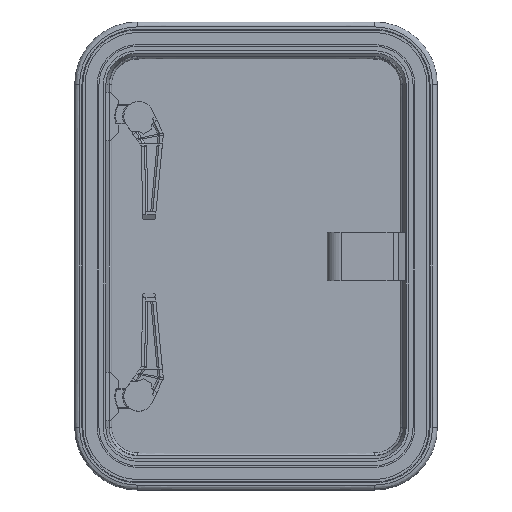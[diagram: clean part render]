
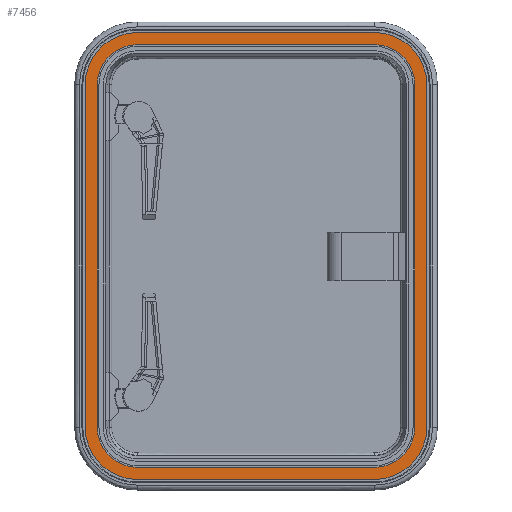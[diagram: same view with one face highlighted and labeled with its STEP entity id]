
A CAD part, top view. The second image highlights one B-rep face of the part: STEP entity #7456.
In plain terms, the highlighted planar face has unit normal (0, 0, 1) as drawn and (0, 0, -1) by its records, which use the part's own axes.
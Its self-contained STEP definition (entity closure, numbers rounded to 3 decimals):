
#1553=DIRECTION('',(1.,0.,0.));
#1554=VECTOR('',#1553,293.);
#1555=CARTESIAN_POINT('',(77.5,28.,-1.5));
#1556=LINE('',#1555,#1554);
#1561=CARTESIAN_POINT('',(77.5,77.5,-1.5));
#1562=DIRECTION('',(0.,0.,1.));
#1563=DIRECTION('',(-1.,0.,0.));
#1564=AXIS2_PLACEMENT_3D('',#1561,#1562,#1563);
#1574=DIRECTION('',(0.,-1.,0.));
#1575=VECTOR('',#1574,423.);
#1576=CARTESIAN_POINT('',(28.,500.5,-1.5));
#1577=LINE('',#1576,#1575);
#1582=CARTESIAN_POINT('',(77.5,500.5,-1.5));
#1583=DIRECTION('',(0.,0.,1.));
#1584=DIRECTION('',(0.,1.,0.));
#1585=AXIS2_PLACEMENT_3D('',#1582,#1583,#1584);
#1591=DIRECTION('',(-1.,0.,0.));
#1592=VECTOR('',#1591,293.);
#1593=CARTESIAN_POINT('',(370.5,550.,-1.5));
#1594=LINE('',#1593,#1592);
#1599=CARTESIAN_POINT('',(370.5,500.5,-1.5));
#1600=DIRECTION('',(0.,0.,1.));
#1601=DIRECTION('',(1.,0.,0.));
#1602=AXIS2_PLACEMENT_3D('',#1599,#1600,#1601);
#1608=DIRECTION('',(0.,1.,0.));
#1609=VECTOR('',#1608,423.);
#1610=CARTESIAN_POINT('',(420.,77.5,-1.5));
#1611=LINE('',#1610,#1609);
#1616=CARTESIAN_POINT('',(370.5,77.5,-1.5));
#1617=DIRECTION('',(0.,0.,1.));
#1618=DIRECTION('',(0.,-1.,0.));
#1619=AXIS2_PLACEMENT_3D('',#1616,#1617,#1618);
#1621=DIRECTION('',(1.,0.,0.));
#1622=VECTOR('',#1621,293.);
#1623=CARTESIAN_POINT('',(77.5,13.,-1.5));
#1624=LINE('',#1623,#1622);
#1625=CARTESIAN_POINT('',(370.5,77.5,-1.5));
#1626=DIRECTION('',(0.,0.,1.));
#1627=DIRECTION('',(0.,-1.,0.));
#1628=AXIS2_PLACEMENT_3D('',#1625,#1626,#1627);
#1630=DIRECTION('',(0.,1.,0.));
#1631=VECTOR('',#1630,423.);
#1632=CARTESIAN_POINT('',(435.,77.5,-1.5));
#1633=LINE('',#1632,#1631);
#1634=CARTESIAN_POINT('',(370.5,500.5,-1.5));
#1635=DIRECTION('',(0.,0.,1.));
#1636=DIRECTION('',(1.,0.,0.));
#1637=AXIS2_PLACEMENT_3D('',#1634,#1635,#1636);
#1639=DIRECTION('',(-1.,0.,0.));
#1640=VECTOR('',#1639,293.);
#1641=CARTESIAN_POINT('',(370.5,565.,-1.5));
#1642=LINE('',#1641,#1640);
#1643=CARTESIAN_POINT('',(77.5,500.5,-1.5));
#1644=DIRECTION('',(0.,0.,1.));
#1645=DIRECTION('',(0.,1.,0.));
#1646=AXIS2_PLACEMENT_3D('',#1643,#1644,#1645);
#1648=DIRECTION('',(0.,-1.,0.));
#1649=VECTOR('',#1648,423.);
#1650=CARTESIAN_POINT('',(13.,500.5,-1.5));
#1651=LINE('',#1650,#1649);
#1652=CARTESIAN_POINT('',(77.5,77.5,-1.5));
#1653=DIRECTION('',(0.,0.,1.));
#1654=DIRECTION('',(-1.,0.,0.));
#1655=AXIS2_PLACEMENT_3D('',#1652,#1653,#1654);
#2037=CARTESIAN_POINT('',(77.5,13.,-1.5));
#2039=VERTEX_POINT('',#2037);
#2040=CARTESIAN_POINT('',(77.5,28.,-1.5));
#2042=VERTEX_POINT('',#2040);
#2078=CARTESIAN_POINT('',(370.5,13.,-1.5));
#2080=VERTEX_POINT('',#2078);
#2081=CARTESIAN_POINT('',(370.5,28.,-1.5));
#2083=VERTEX_POINT('',#2081);
#2119=CARTESIAN_POINT('',(435.,77.5,-1.5));
#2121=VERTEX_POINT('',#2119);
#2122=CARTESIAN_POINT('',(420.,77.5,-1.5));
#2124=VERTEX_POINT('',#2122);
#2160=CARTESIAN_POINT('',(435.,500.5,-1.5));
#2162=VERTEX_POINT('',#2160);
#2163=CARTESIAN_POINT('',(420.,500.5,-1.5));
#2165=VERTEX_POINT('',#2163);
#2201=CARTESIAN_POINT('',(370.5,565.,-1.5));
#2203=VERTEX_POINT('',#2201);
#2204=CARTESIAN_POINT('',(370.5,550.,-1.5));
#2206=VERTEX_POINT('',#2204);
#2242=CARTESIAN_POINT('',(77.5,565.,-1.5));
#2244=VERTEX_POINT('',#2242);
#2245=CARTESIAN_POINT('',(77.5,550.,-1.5));
#2247=VERTEX_POINT('',#2245);
#2283=CARTESIAN_POINT('',(13.,500.5,-1.5));
#2285=VERTEX_POINT('',#2283);
#2286=CARTESIAN_POINT('',(28.,500.5,-1.5));
#2288=VERTEX_POINT('',#2286);
#2324=CARTESIAN_POINT('',(13.,77.5,-1.5));
#2326=VERTEX_POINT('',#2324);
#2327=CARTESIAN_POINT('',(28.,77.5,-1.5));
#2329=VERTEX_POINT('',#2327);
#7423=CARTESIAN_POINT('',(224.,20.5,-1.5));
#7424=DIRECTION('',(0.,0.,1.));
#7425=DIRECTION('',(0.,1.,0.));
#7426=AXIS2_PLACEMENT_3D('',#7423,#7424,#7425);
#7427=PLANE('',#7426);
#7429=ORIENTED_EDGE('',*,*,#7428,.T.);
#7431=ORIENTED_EDGE('',*,*,#7430,.T.);
#7433=ORIENTED_EDGE('',*,*,#7432,.T.);
#7435=ORIENTED_EDGE('',*,*,#7434,.T.);
#7437=ORIENTED_EDGE('',*,*,#7436,.T.);
#7439=ORIENTED_EDGE('',*,*,#7438,.T.);
#7441=ORIENTED_EDGE('',*,*,#7440,.T.);
#7443=ORIENTED_EDGE('',*,*,#7442,.T.);
#7444=EDGE_LOOP('',(#7429,#7431,#7433,#7435,#7437,#7439,#7441,#7443));
#7445=FACE_OUTER_BOUND('',#7444,.F.);
#7446=ORIENTED_EDGE('',*,*,#7333,.F.);
#7447=ORIENTED_EDGE('',*,*,#7347,.F.);
#7448=ORIENTED_EDGE('',*,*,#7361,.F.);
#7449=ORIENTED_EDGE('',*,*,#7375,.F.);
#7450=ORIENTED_EDGE('',*,*,#7389,.F.);
#7451=ORIENTED_EDGE('',*,*,#7403,.F.);
#7452=ORIENTED_EDGE('',*,*,#7416,.F.);
#7453=ORIENTED_EDGE('',*,*,#7318,.F.);
#7454=EDGE_LOOP('',(#7446,#7447,#7448,#7449,#7450,#7451,#7452,#7453));
#7455=FACE_BOUND('',#7454,.F.);
#7456=ADVANCED_FACE('',(#7445,#7455),#7427,.F.);
#1565=CIRCLE('',#1564,49.5);
#1586=CIRCLE('',#1585,49.5);
#1603=CIRCLE('',#1602,49.5);
#1620=CIRCLE('',#1619,49.5);
#1629=CIRCLE('',#1628,64.5);
#1638=CIRCLE('',#1637,64.5);
#1647=CIRCLE('',#1646,64.5);
#1656=CIRCLE('',#1655,64.5);
#7318=EDGE_CURVE('',#2042,#2083,#1556,.T.);
#7333=EDGE_CURVE('',#2329,#2042,#1565,.T.);
#7347=EDGE_CURVE('',#2288,#2329,#1577,.T.);
#7361=EDGE_CURVE('',#2247,#2288,#1586,.T.);
#7375=EDGE_CURVE('',#2206,#2247,#1594,.T.);
#7389=EDGE_CURVE('',#2165,#2206,#1603,.T.);
#7403=EDGE_CURVE('',#2124,#2165,#1611,.T.);
#7416=EDGE_CURVE('',#2083,#2124,#1620,.T.);
#7428=EDGE_CURVE('',#2039,#2080,#1624,.T.);
#7430=EDGE_CURVE('',#2080,#2121,#1629,.T.);
#7432=EDGE_CURVE('',#2121,#2162,#1633,.T.);
#7434=EDGE_CURVE('',#2162,#2203,#1638,.T.);
#7436=EDGE_CURVE('',#2203,#2244,#1642,.T.);
#7438=EDGE_CURVE('',#2244,#2285,#1647,.T.);
#7440=EDGE_CURVE('',#2285,#2326,#1651,.T.);
#7442=EDGE_CURVE('',#2326,#2039,#1656,.T.);
